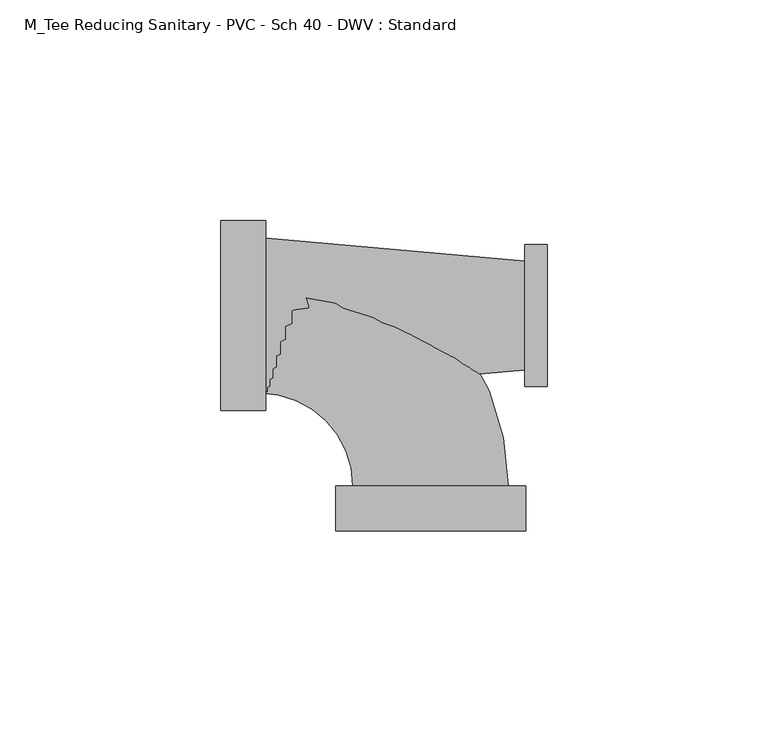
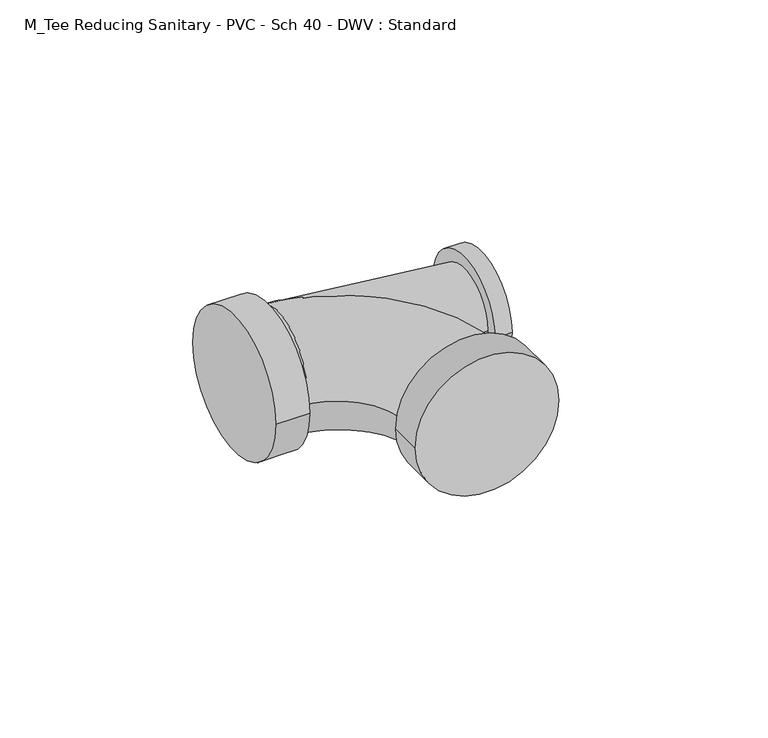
"""IFC4 building model written with IfcOpenShell, lengths in millimetres: pipe fitting geometry, M_Tee Reducing Sanitary - PVC - Sch 40 - DWV : Standard."""

from ifc_helpers import new_model, si_unit, point, frame, origin, place, context, project, spatial, polyline, circle_curve, ellipse_curve, trimmed, source, transform, mapped, element, save
from ifc_brep_helpers import plane_surface, cylinder_surface, revolved_surface, advanced_brep


def m_tee_reducing_sanitary_pvc_sch_40_dwv_standard_0d22577e(model_context):
    return source(origin(), model_context, "Body", "AdvancedBrep", [
        advanced_brep(
        [(21.301625, -16.0871094, 0.0), (21.301625, 16.0871094, 0.0), (21.301625, -12.3640625, 0.0), (21.301625, 12.3640625, 0.0), (26.3719375, -16.0871094, 0.0), (26.3719375, 16.0871094, 0.0), (-37.2804062, 17.5640625, 0.0), (-37.2804062, -17.5640625, 0.0), (-47.4507187, -21.4871094, 0.0), (-47.4507187, 21.4871094, 0.0), (-37.2804062, -21.4871094, 0.0), (-37.2804062, 21.4871094, 0.0)],
        [
            (0, 1, circle_curve(frame((21.301625, 0.0, 0.0), z_axis=(-1.0, 0.0, 0.0), x_axis=(0.0, 1.0, 0.0)), 16.0871094)),
            (1, 0, circle_curve(frame((21.301625, 0.0, 0.0), z_axis=(-1.0, 0.0, 0.0), x_axis=(0.0, 1.0, 0.0)), 16.0871094)),
            (2, 3, circle_curve(frame((21.301625, 0.0, 0.0), z_axis=(1.0, 0.0, 0.0), x_axis=(0.0, -1.0, 0.0)), 12.3640625)),
            (3, 2, circle_curve(frame((21.301625, 0.0, 0.0), z_axis=(1.0, 0.0, 0.0), x_axis=(0.0, 1.0, 0.0)), 12.3640625)),
            (4, 5, circle_curve(frame((26.3719375, 0.0, 0.0), z_axis=(1.0, 0.0, 0.0), x_axis=(0.0, 1.0, 0.0)), 16.0871094)),
            (5, 4, circle_curve(frame((26.3719375, 0.0, 0.0), z_axis=(1.0, 0.0, 0.0), x_axis=(0.0, 1.0, 0.0)), 16.0871094)),
            (0, 4),
            (5, 1),
            (6, 3),
            (2, 7),
            (7, 6, circle_curve(frame((-37.2804062, 0.0, 0.0), z_axis=(1.0, 0.0, 0.0), x_axis=(0.0, -1.0, 0.0)), 17.5640625)),
            (6, 7, circle_curve(frame((-37.2804062, 0.0, 0.0), z_axis=(1.0, 0.0, 0.0), x_axis=(0.0, 1.0, 0.0)), 17.5640625)),
            (8, 9, circle_curve(frame((-47.4507187, 0.0, 0.0), z_axis=(-1.0, 0.0, 0.0), x_axis=(0.0, 1.0, 0.0)), 21.4871094)),
            (9, 8, circle_curve(frame((-47.4507187, 0.0, 0.0), z_axis=(-1.0, 0.0, 0.0), x_axis=(0.0, 1.0, 0.0)), 21.4871094)),
            (10, 11, circle_curve(frame((-37.2804062, 0.0, 0.0), z_axis=(1.0, 0.0, 0.0), x_axis=(0.0, 1.0, 0.0)), 21.4871094)),
            (11, 10, circle_curve(frame((-37.2804062, 0.0, 0.0), z_axis=(1.0, 0.0, 0.0), x_axis=(0.0, 1.0, 0.0)), 21.4871094)),
            (8, 10),
            (11, 9),
        ],
        [
            plane_surface(frame((21.301625, 0.0, 0.0), z_axis=(-1.0, 0.0, 0.0), x_axis=(0.0, 0.0, 1.0))),
            plane_surface(frame((26.3719375, 0.0, 0.0), z_axis=(1.0, 0.0, 0.0), x_axis=(0.0, 0.0, 1.0))),
            cylinder_surface(frame((21.301625, 0.0, 0.0), z_axis=(-1.0, 0.0, 0.0), x_axis=(0.0, 1.0, 0.0)), 16.0871094),
            revolved_surface(polyline([(21.301625, 12.36406250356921, 0.0), (-37.280406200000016, 17.5640625, 0.0)]), (160.5923742, 0.0, 0.0), (-1.0, 0.0, 0.0)),
            plane_surface(frame((-47.4507187, 0.0, 0.0), z_axis=(-1.0, 0.0, 0.0), x_axis=(0.0, 0.0, 1.0))),
            plane_surface(frame((-37.2804062, 0.0, 0.0), z_axis=(1.0, 0.0, 0.0), x_axis=(0.0, 0.0, 1.0))),
            cylinder_surface(frame((-47.4507187, 0.0, 0.0), z_axis=(-1.0, 0.0, 0.0), x_axis=(0.0, 1.0, 0.0)), 21.4871094),
        ],
        [
            (0, [[1, 2], [3, 4]]),
            (1, [[5, 6]]),
            (2, [[-1, 7, -6, 8]]),
            (2, [[-2, -8, -5, -7]]),
            (3, [[9, -3, 10, 11]]),
            (3, [[-9, 12, -10, -4]]),
            (4, [[13, 14]]),
            (5, [[15, 16], [-11, -12]]),
            (6, [[-13, 17, -16, 18]]),
            (6, [[-14, -18, -15, -17]]),
        ],
    ),
        advanced_brep(
        [(-21.4871094, -38.5976563, 0.0), (21.4871094, -38.5976563, 0.0), (17.5640625, -38.5976563, 0.0), (-17.5640625, -38.5976563, 0.0), (-21.4871094, -48.7679688, 0.0), (21.4871094, -48.7679688, 0.0), (-38.5976562, -17.5640625, 0.0), (-38.5976562, 17.5640625, 0.0)],
        [
            (0, 1, circle_curve(frame((0.0, -38.5976563, 0.0), z_axis=(0.0, 1.0, 0.0), x_axis=(1.0, 0.0, 0.0)), 21.4871094)),
            (1, 0, circle_curve(frame((0.0, -38.5976563, 0.0), z_axis=(0.0, 1.0, 0.0), x_axis=(1.0, 0.0, 0.0)), 21.4871094)),
            (2, 3, circle_curve(frame((0.0, -38.5976563, 0.0), z_axis=(0.0, -1.0, 0.0), x_axis=(1.0, 0.0, 0.0)), 17.5640625)),
            (3, 2, circle_curve(frame((0.0, -38.5976563, 0.0), z_axis=(0.0, -1.0, 0.0), x_axis=(1.0, 0.0, 0.0)), 17.5640625)),
            (4, 5, circle_curve(frame((0.0, -48.7679688, 0.0), z_axis=(0.0, -1.0, 0.0), x_axis=(1.0, 0.0, 0.0)), 21.4871094)),
            (5, 4, circle_curve(frame((0.0, -48.7679688, 0.0), z_axis=(0.0, -1.0, 0.0), x_axis=(1.0, 0.0, 0.0)), 21.4871094)),
            (0, 4),
            (5, 1),
            (6, 7, circle_curve(frame((-38.5976562, 0.0, 0.0), z_axis=(-1.0, 0.0, 0.0), x_axis=(0.0, 1.0, 0.0)), 17.5640625)),
            (7, 6, circle_curve(frame((-38.5976562, 0.0, 0.0), z_axis=(-1.0, 0.0, 0.0), x_axis=(0.0, 1.0, 0.0)), 17.5640625)),
            (6, 3, circle_curve(frame((-38.5976562, -38.5976563, 0.0), z_axis=(0.0, 0.0, -1.0), x_axis=(0.0, 1.0, 0.0)), 21.0335938)),
            (2, 7, circle_curve(frame((-38.5976562, -38.5976563, 0.0), z_axis=(0.0, 0.0, 1.0), x_axis=(0.0, 1.0, 0.0)), 56.1617188)),
        ],
        [
            plane_surface(frame((0.0, -38.5976563, 0.0), z_axis=(0.0, 1.0, 0.0), x_axis=(0.0, 0.0, 1.0))),
            plane_surface(frame((0.0, -48.7679688, 0.0), z_axis=(0.0, -1.0, 0.0), x_axis=(0.0, 0.0, 1.0))),
            cylinder_surface(frame((0.0, -38.5976563, 0.0), z_axis=(0.0, 1.0, 0.0), x_axis=(1.0, 0.0, 0.0)), 21.4871094),
            plane_surface(frame((-38.5976562, 0.0, 0.0), z_axis=(-1.0, 0.0, 0.0), x_axis=(0.0, 0.0, 1.0))),
            revolved_surface(trimmed(ellipse_curve(frame((-38.5976562, 0.0, 0.0), z_axis=(-1.0, 0.0, 0.0), x_axis=(0.0, 1.0, 0.0)), 17.5640625, 17.5640625), [point((-38.5976562, -17.5640625, 0.0))], [point((-38.5976562, 17.5640625, 0.0))], True, "CARTESIAN"), (-38.5976562, -38.5976563, 0.0), (0.0, 0.0, -1.0)),
            revolved_surface(trimmed(ellipse_curve(frame((-38.5976562, 0.0, 0.0), z_axis=(-1.0, 0.0, 0.0), x_axis=(0.0, 1.0, 0.0)), 17.5640625, 17.5640625), [point((-38.5976562, 17.5640625, 0.0))], [point((-38.5976562, -17.5640625, 0.0))], True, "CARTESIAN"), (-38.5976562, -38.5976563, 0.0), (0.0, 0.0, -1.0)),
        ],
        [
            (0, [[1, 2], [3, 4]]),
            (1, [[5, 6]]),
            (2, [[-1, 7, -6, 8]]),
            (2, [[-2, -8, -5, -7]]),
            (3, [[9, 10]]),
            (4, [[-9, 11, -3, 12]]),
            (5, [[-10, -12, -4, -11]]),
        ],
    ),
    ])


if __name__ == "__main__":
    model = new_model("IFC4")
    model_context = context("Model", 3, world=origin())
    ifc_project = project(units=[si_unit("LENGTHUNIT", "METRE", prefix="MILLI")], contexts=[model_context])
    site = spatial("IfcSite", under=ifc_project)
    building = spatial("IfcBuilding", under=site)
    placement = place(None, origin())
    m_tee_reducing_sanitary_pvc_sch_40_dwv_standard_shape = m_tee_reducing_sanitary_pvc_sch_40_dwv_standard_0d22577e(model_context)
    element("IfcPipeFitting", 1, ObjectType="M_Tee Reducing Sanitary - PVC - Sch 40 - DWV : Standard", at=placement, inside=building, context=model_context, shape_type="MappedRepresentation", body=[
        mapped(m_tee_reducing_sanitary_pvc_sch_40_dwv_standard_shape, transform((0.0, 0.0, 0.0), x_axis=(1.0, 0.0, 0.0), y_axis=(0.0, 1.0, 0.0), z_axis=(0.0, 0.0, 1.0))),
    ])
    save(model, "model.ifc")
